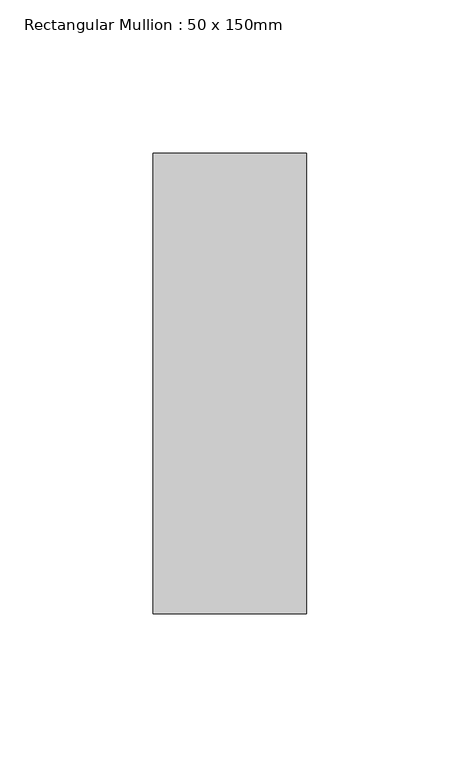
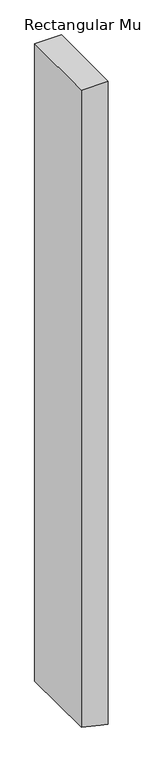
"""IFC4 building model written with IfcOpenShell, lengths in millimetres: member geometry, Rectangular Mullion : 50 x 150mm."""

from ifc_helpers import new_model, si_unit, frame, origin, place, context, project, spatial, polyline, outline, extrude, source, transform, mapped, element, save


def rectangular_mullion_50_x_150mm_ac26b111(model_context):
    return source(origin(), model_context, "Body", "SweptSolid", [
        extrude(outline(polyline([(0.0, 25.0), (0.0, -25.0), (-1251.4830532, -25.0), (-1259.6118852, 11.0099035), (-1262.7699926, 25.0), (0.0, 25.0)])), frame((0.0, -75.0, 0.0), z_axis=(0.0, 1.0, 0.0), x_axis=(0.0, 0.0, 1.0)), (0.0, 0.0, 1.0), 150.0),
    ])


if __name__ == "__main__":
    model = new_model("IFC4")
    model_context = context("Model", 3, world=origin())
    ifc_project = project(units=[si_unit("LENGTHUNIT", "METRE", prefix="MILLI")], contexts=[model_context])
    site = spatial("IfcSite", under=ifc_project)
    building = spatial("IfcBuilding", under=site)
    placement = place(None, origin())
    rectangular_mullion_50_x_150mm_shape = rectangular_mullion_50_x_150mm_ac26b111(model_context)
    element("IfcMember", 1, ObjectType="Rectangular Mullion : 50 x 150mm", at=placement, inside=building, context=model_context, shape_type="MappedRepresentation", body=[
        mapped(rectangular_mullion_50_x_150mm_shape, transform((0.0, 0.0, 0.0), x_axis=(1.0, 0.0, 0.0), y_axis=(0.0, 1.0, 0.0), z_axis=(0.0, 0.0, 1.0))),
    ])
    save(model, "model.ifc")
